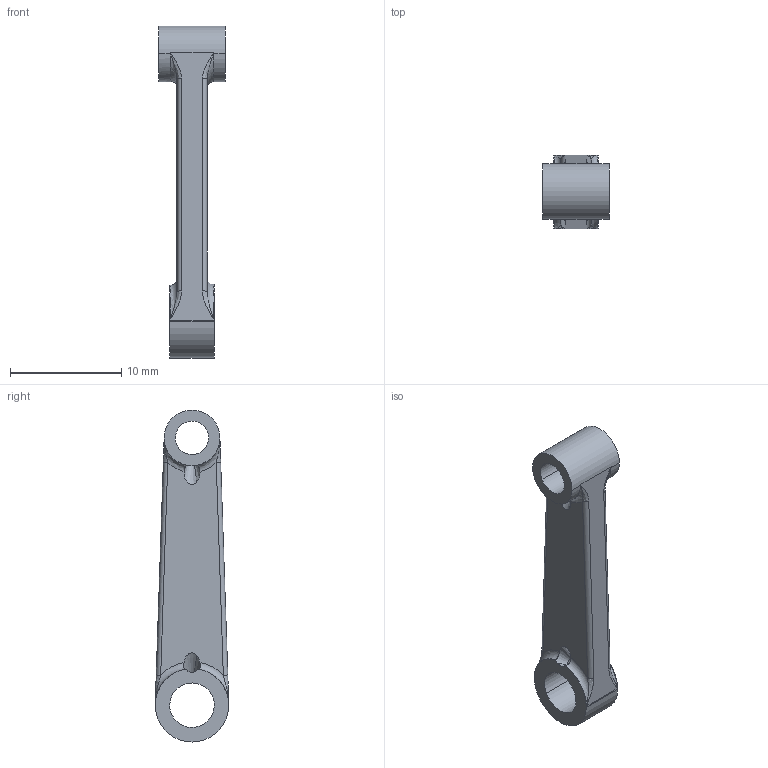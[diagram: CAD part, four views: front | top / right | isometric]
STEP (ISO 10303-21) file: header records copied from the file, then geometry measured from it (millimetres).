
FILE_DESCRIPTION(('CATIA V5 STEP'),'2;1');
FILE_NAME('C:\CADPool\catdb\Motor\214extra\Pleuel.stp','2005-10-28T08:28:02+00:00',('none'),('none'),'CATIA Version 5','CATIA V5 STEP AP214','none');
FILE_SCHEMA(('AUTOMOTIVE_DESIGN { 1 0 10303 214 1 1 1 1 }'));
Length unit declared in the file: millimetre
Products named in the file (1): Pleuel
Bounding box: 6 x 6.6 x 29.8 mm (x, y, z)
Volume: 461.1 mm3; surface area: 645.8 mm2
Topology: 1 solids, 1 shells, 51 faces, 141 edges, 84 vertices
Faces by surface type: cylinder 17, bspline 15, plane 8, torus 7, cone 4
Entity records: 2505 total; most frequent: CARTESIAN_POINT 1312, ORIENTED_EDGE 270, EDGE_CURVE 135, DIRECTION 127, VERTEX_POINT 84, AXIS2_PLACEMENT_3D 64, EDGE_LOOP 57, B_SPLINE_CURVE_WITH_KNOTS 56
